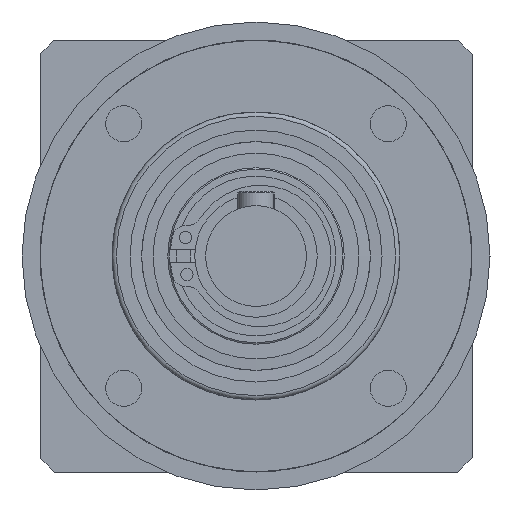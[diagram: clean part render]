
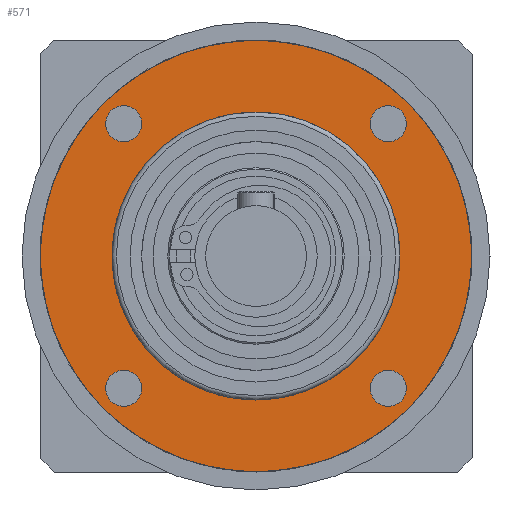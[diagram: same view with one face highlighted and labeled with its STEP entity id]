
A CAD part, left-side view. The second image highlights one B-rep face of the part: STEP entity #571.
In plain terms, the highlighted planar face has unit normal (-1, 0, 0).
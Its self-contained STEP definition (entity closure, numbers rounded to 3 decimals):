
#571=ADVANCED_FACE('',(#848,#849,#850,#851,#852,#853),#731,.T.);
#731=PLANE('',#2656);
#848=FACE_BOUND('',#1105,.T.);
#849=FACE_BOUND('',#1106,.T.);
#850=FACE_BOUND('',#1107,.T.);
#851=FACE_BOUND('',#1108,.T.);
#852=FACE_BOUND('',#1109,.T.);
#853=FACE_BOUND('',#1110,.T.);
#1105=EDGE_LOOP('',(#1475));
#1106=EDGE_LOOP('',(#1476));
#1107=EDGE_LOOP('',(#1477));
#1108=EDGE_LOOP('',(#1478));
#1109=EDGE_LOOP('',(#1479));
#1110=EDGE_LOOP('',(#1480));
#1475=ORIENTED_EDGE('',*,*,#2182,.T.);
#1476=ORIENTED_EDGE('',*,*,#2183,.T.);
#1477=ORIENTED_EDGE('',*,*,#2184,.T.);
#1478=ORIENTED_EDGE('',*,*,#2185,.T.);
#1479=ORIENTED_EDGE('',*,*,#2178,.T.);
#1480=ORIENTED_EDGE('',*,*,#2180,.F.);
#1947=VERTEX_POINT('',#3876);
#1949=VERTEX_POINT('',#3881);
#1951=VERTEX_POINT('',#3886);
#1952=VERTEX_POINT('',#3888);
#1953=VERTEX_POINT('',#3890);
#1954=VERTEX_POINT('',#3892);
#2178=EDGE_CURVE('',#1947,#1947,#2434,.T.);
#2180=EDGE_CURVE('',#1949,#1949,#2436,.T.);
#2182=EDGE_CURVE('',#1951,#1951,#2438,.T.);
#2183=EDGE_CURVE('',#1952,#1952,#2439,.T.);
#2184=EDGE_CURVE('',#1953,#1953,#2440,.T.);
#2185=EDGE_CURVE('',#1954,#1954,#2441,.T.);
#2434=CIRCLE('',#2646,30.);
#2436=CIRCLE('',#2649,20.);
#2438=CIRCLE('',#2652,2.5);
#2439=CIRCLE('',#2653,2.5);
#2440=CIRCLE('',#2654,2.5);
#2441=CIRCLE('',#2655,2.5);
#2646=AXIS2_PLACEMENT_3D('',#3875,#3107,#3108);
#2649=AXIS2_PLACEMENT_3D('',#3880,#3113,#3114);
#2652=AXIS2_PLACEMENT_3D('',#3885,#3119,#3120);
#2653=AXIS2_PLACEMENT_3D('',#3887,#3121,#3122);
#2654=AXIS2_PLACEMENT_3D('',#3889,#3123,#3124);
#2655=AXIS2_PLACEMENT_3D('',#3891,#3125,#3126);
#2656=AXIS2_PLACEMENT_3D('',#3893,#3127,#3128);
#3107=DIRECTION('',(-1.,0.,0.));
#3108=DIRECTION('',(0.,-0.707,-0.707));
#3113=DIRECTION('',(-1.,0.,0.));
#3114=DIRECTION('',(0.,-0.707,-0.707));
#3119=DIRECTION('',(1.,0.,0.));
#3120=DIRECTION('',(0.,-0.707,0.707));
#3121=DIRECTION('',(1.,0.,0.));
#3122=DIRECTION('',(0.,-0.707,-0.707));
#3123=DIRECTION('',(1.,0.,0.));
#3124=DIRECTION('',(0.,0.707,-0.707));
#3125=DIRECTION('',(1.,0.,0.));
#3126=DIRECTION('',(0.,0.707,0.707));
#3127=DIRECTION('',(-1.,0.,0.));
#3128=DIRECTION('',(0.,-0.707,-0.707));
#3875=CARTESIAN_POINT('',(-90.95,0.,0.));
#3876=CARTESIAN_POINT('',(-90.95,-21.213,-21.213));
#3880=CARTESIAN_POINT('',(-90.95,0.,0.));
#3881=CARTESIAN_POINT('',(-90.95,-14.142,-14.142));
#3885=CARTESIAN_POINT('',(-90.95,-18.385,-18.385));
#3886=CARTESIAN_POINT('',(-90.95,-20.153,-16.617));
#3887=CARTESIAN_POINT('',(-90.95,18.385,-18.385));
#3888=CARTESIAN_POINT('',(-90.95,16.617,-20.153));
#3889=CARTESIAN_POINT('',(-90.95,18.385,18.385));
#3890=CARTESIAN_POINT('',(-90.95,20.153,16.617));
#3891=CARTESIAN_POINT('',(-90.95,-18.385,18.385));
#3892=CARTESIAN_POINT('',(-90.95,-16.617,20.153));
#3893=CARTESIAN_POINT('',(-90.95,0.,0.));
